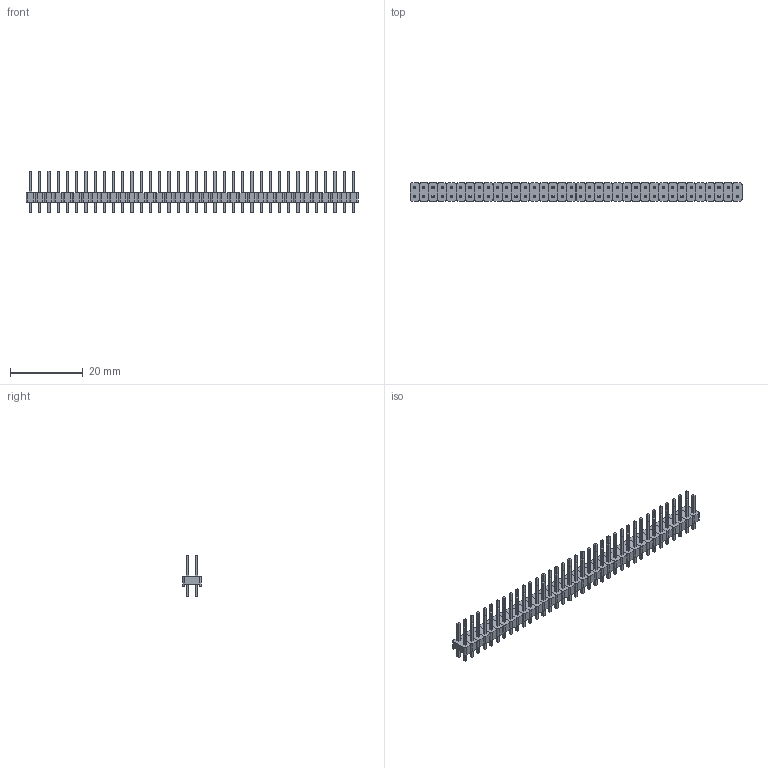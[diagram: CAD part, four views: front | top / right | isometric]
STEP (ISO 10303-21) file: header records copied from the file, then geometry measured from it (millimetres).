
FILE_DESCRIPTION(('FreeCAD Model'),'2;1');
FILE_NAME('Open CASCADE Shape Model','2022-04-06T16:10:18',( 'Engenharia Metaltex'),('Metaltex'), 'Open CASCADE STEP processor 7.5','FreeCAD','Unknown');
FILE_SCHEMA(('AUTOMOTIVE_DESIGN { 1 0 10303 214 1 1 1 1 }'));
Length unit declared in the file: millimetre
Products named in the file (145): BPDC; 36; Base035; Pino072; Pino071; 1; Base; Pino1; Pino2; 2; Base001; Pino003; Pino004; 3; Base002; Pino006; Pino005; 4; Base003; Pino008; Pino007; 5; Base004; Pino009; Pino010; 6; Base005; Pino012; Pino011; 7; Base006; Pino013; Pino014; 8; Base007; Pino015; Pino016; 9; Base008; Pino017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
Assembly tree (144 placements, depth 3):
  BPDC
    36
      Base035
      Pino072
      Pino071
    1
      Base
      Pino1
      Pino2
    2
      Base001
      Pino003
      Pino004
    3
      Base002
      Pino006
      Pino005
    4
      Base003
      Pino008
      Pino007
    5
      Base004
      Pino009
      Pino010
    6
      Base005
      Pino012
      Pino011
    7
      Base006
      Pino013
      Pino014
    8
      Base007
      Pino015
      Pino016
    9
      Base008
      Pino017
      Pino018
    10
      Base009
      Pino019
      Pino020
    11
      Base010
      Pino021
      Pino022
    12
      Base011
      Pino023
      Pino024
    13
      Base012
      Pino025
      Pino026
    14
      Base013
      Pino027
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Bounding box: 91.44 x 5.08 x 11.54 mm (x, y, z)
Volume: 1257.2 mm3; surface area: 4630.7 mm2
Topology: 108 solids, 108 shells, 1800 faces, 4176 edges, 2592 vertices
Faces by surface type: plane 1656, cylinder 144
Entity records: 108019 total; most frequent: CARTESIAN_POINT 17929, DIRECTION 16562, LINE 11952, VECTOR 11952, ORIENTED_EDGE 8352, PCURVE 8352, DEFINITIONAL_REPRESENTATION 8352, EDGE_CURVE 4176
